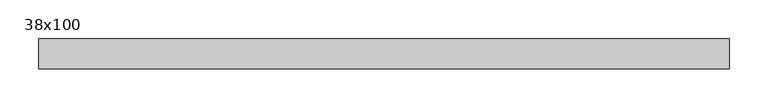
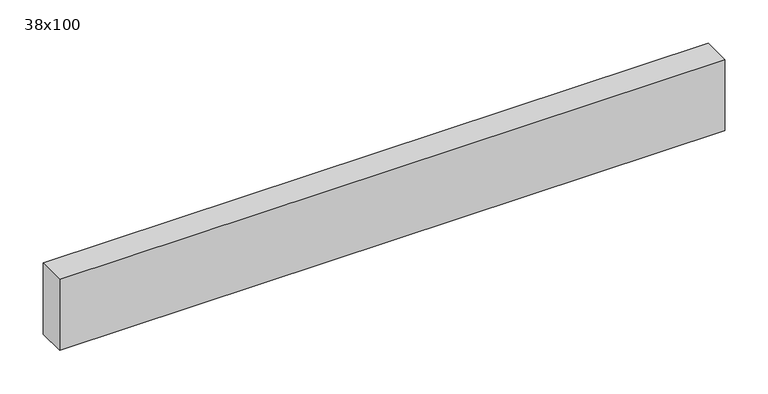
"""IFC4 building model written with IfcOpenShell, lengths in millimetres: beam geometry, Poutre - Bois de construction de dimensions courantes : 38x100."""

from ifc_helpers import new_model, si_unit, frame, origin, place, context, project, spatial, polyline, outline, extrude, source, transform, mapped, element, save


def beam_38x100_aa767362(model_context):
    return source(origin(), model_context, "Body", "SweptSolid", [
        extrude(outline(polyline([(435.0, 19.05), (435.0, -19.05), (-450.0, -19.05), (-450.0, 19.05), (435.0, 19.05)])), frame((0.0, 0.0, -50.0), z_axis=(0.0, 0.0, 1.0), x_axis=(1.0, 0.0, 0.0)), (0.0, 0.0, 1.0), 100.0),
    ])


if __name__ == "__main__":
    model = new_model("IFC4")
    model_context = context("Model", 3, world=origin())
    ifc_project = project(units=[si_unit("LENGTHUNIT", "METRE", prefix="MILLI")], contexts=[model_context])
    site = spatial("IfcSite", under=ifc_project)
    building = spatial("IfcBuilding", under=site)
    placement = place(None, origin())
    beam_38x100_shape = beam_38x100_aa767362(model_context)
    element("IfcBeam", 1, ObjectType="Poutre - Bois de construction de dimensions courantes : 38x100", at=placement, inside=building, context=model_context, shape_type="MappedRepresentation", body=[
        mapped(beam_38x100_shape, transform((0.0, 0.0, 0.0), x_axis=(1.0, 0.0, 0.0), y_axis=(0.0, 1.0, 0.0), z_axis=(0.0, 0.0, 1.0))),
    ])
    save(model, "model.ifc")
